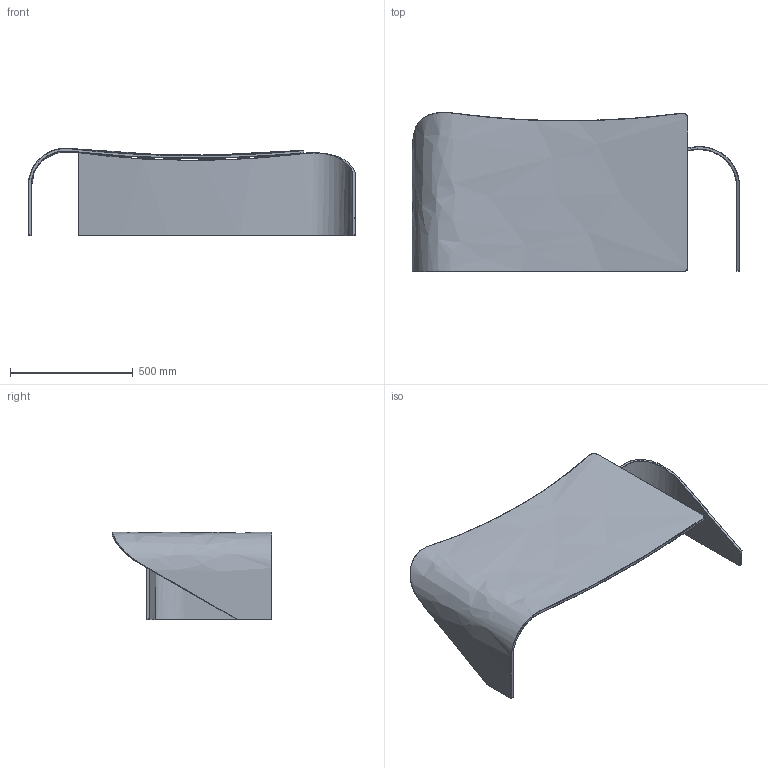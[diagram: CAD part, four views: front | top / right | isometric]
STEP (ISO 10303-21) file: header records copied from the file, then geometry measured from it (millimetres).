
FILE_DESCRIPTION(/* description */ (''),/* implementation_level */ '2;1');
FILE_NAME(/* name */ '0140 - Gemini 130x65',/* time_stamp */ '2010-11-03T17:37:43+01:00',/* author */ (''),/* organization */ (''),/* preprocessor_version */ 'ST-DEVELOPER v10',/* originating_system */ '',/* authorisation */ '');
FILE_SCHEMA (('CONFIG_CONTROL_DESIGN'));
Length unit declared in the file: centimetre
Products named in the file (1): 1
Bounding box: 1335.86 x 649.92 x 356.94 mm (x, y, z)
Volume: 15796084.7 mm3; surface area: 2591363.5 mm2
Topology: 2 solids, 2 shells, 70 faces, 155 edges, 89 vertices
Faces by surface type: bspline 67, plane 3
Entity records: 6662 total; most frequent: CARTESIAN_POINT 5589, ORIENTED_EDGE 310, EDGE_CURVE 155, B_SPLINE_CURVE_WITH_KNOTS 146, VERTEX_POINT 89, ADVANCED_FACE 70, FACE_OUTER_BOUND 70, EDGE_LOOP 70
